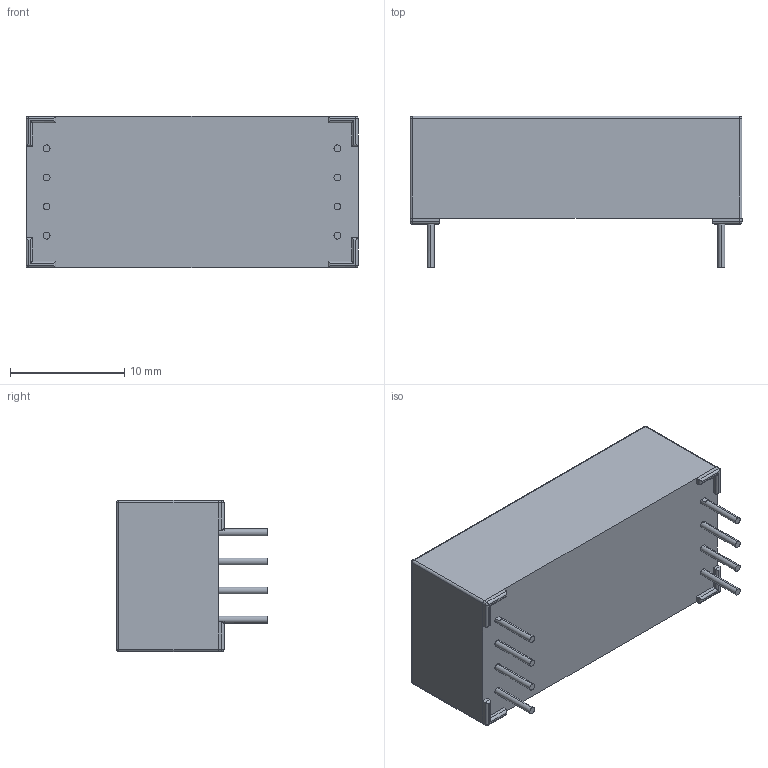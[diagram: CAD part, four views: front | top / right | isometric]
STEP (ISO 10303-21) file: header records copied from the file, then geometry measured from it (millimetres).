
FILE_DESCRIPTION (( 'STEP AP203' ), '1' );
FILE_NAME ('80-2-C.STEP', '2010-06-29T15:23:03', ( ' ' ), ( '' ), 'SwSTEP 2.0', 'SolidWorks 2009', '' );
FILE_SCHEMA (( 'CONFIG_CONTROL_DESIGN' ));
Length unit declared in the file: millimetre
Products named in the file (1): 80-2-C
Bounding box: 29 x 13.2 x 13.2 mm (x, y, z)
Volume: 3415.2 mm3; surface area: 1587.5 mm2
Topology: 1 solids, 1 shells, 721 faces, 1883 edges, 1230 vertices
Faces by surface type: plane 413, bspline 248, cylinder 52, sphere 8
Entity records: 35318 total; most frequent: CARTESIAN_POINT 19287, ORIENTED_EDGE 3750, DIRECTION 2375, EDGE_CURVE 1875, VECTOR 1291, LINE 1291, VERTEX_POINT 1230, EDGE_LOOP 795
